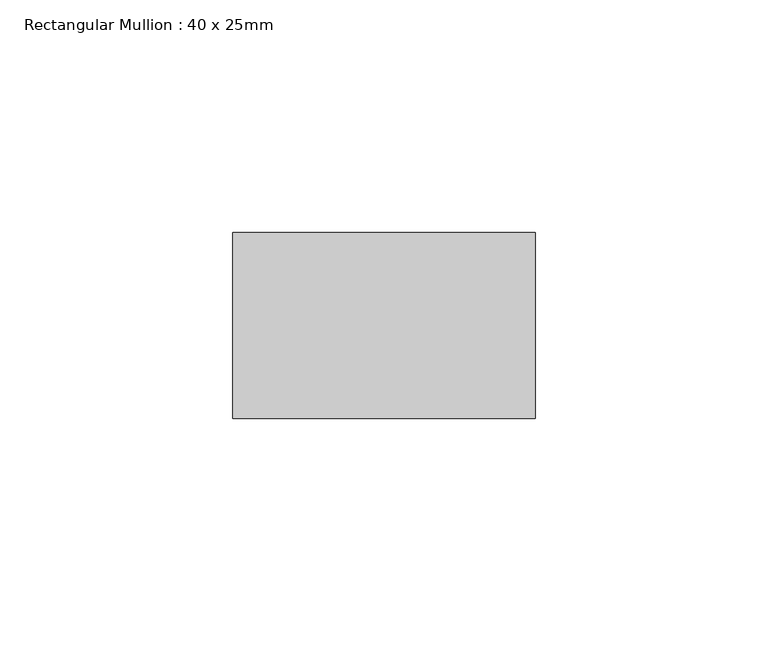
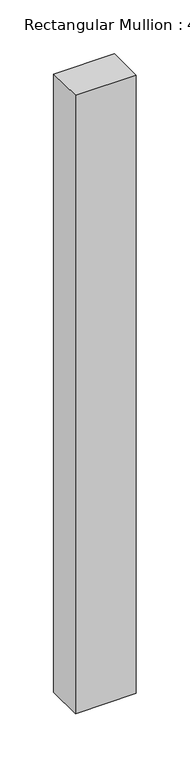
"""IFC4 building model written with IfcOpenShell, lengths in millimetres: member geometry, Rectangular Mullion : 40 x 25mm."""

from ifc_helpers import new_model, si_unit, frame, origin, place, context, project, spatial, polyline, outline, extrude, source, transform, mapped, element, save


def rectangular_mullion_40_x_25mm_c6eb2826(model_context):
    return source(origin(), model_context, "Body", "SweptSolid", [
        extrude(outline(polyline([(0.0, -20.0), (0.0, -60.0), (-65.0, -60.0), (-65.0, -20.0), (0.0, -20.0)])), frame((0.0, 0.0, -700.0), z_axis=(0.0, 0.0, 1.0), x_axis=(1.0, 0.0, 0.0)), (0.0, 0.0, 1.0), 700.0),
    ])


if __name__ == "__main__":
    model = new_model("IFC4")
    model_context = context("Model", 3, world=origin())
    ifc_project = project(units=[si_unit("LENGTHUNIT", "METRE", prefix="MILLI")], contexts=[model_context])
    site = spatial("IfcSite", under=ifc_project)
    building = spatial("IfcBuilding", under=site)
    placement = place(None, origin())
    rectangular_mullion_40_x_25mm_shape = rectangular_mullion_40_x_25mm_c6eb2826(model_context)
    element("IfcMember", 1, ObjectType="Rectangular Mullion : 40 x 25mm", at=placement, inside=building, context=model_context, shape_type="MappedRepresentation", body=[
        mapped(rectangular_mullion_40_x_25mm_shape, transform((0.0, 0.0, 0.0), x_axis=(1.0, 0.0, 0.0), y_axis=(0.0, 1.0, 0.0), z_axis=(0.0, 0.0, 1.0))),
    ])
    save(model, "model.ifc")
